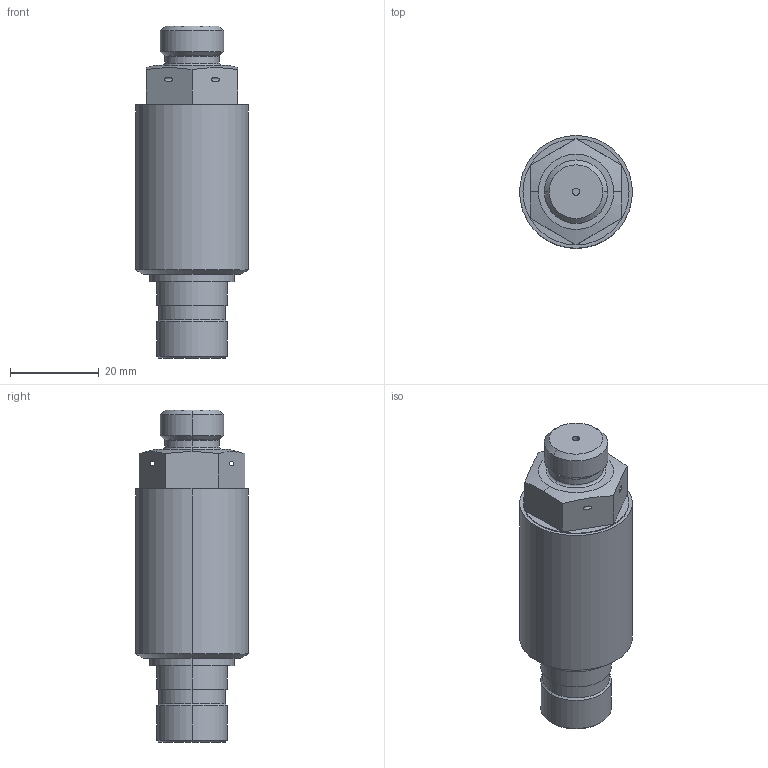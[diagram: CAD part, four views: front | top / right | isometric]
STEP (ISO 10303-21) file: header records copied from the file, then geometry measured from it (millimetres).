
FILE_DESCRIPTION (( 'STEP AP214' ), '1' );
FILE_NAME ('P6X-TYPE.STEP', '2010-11-11T14:29:15', ( '' ), ( '' ), 'SwSTEP 2.0', 'SolidWorks 2006303', '' );
FILE_SCHEMA (( 'AUTOMOTIVE_DESIGN' ));
Length unit declared in the file: inch
Products named in the file (1): P6X-TYPE
Bounding box: 25.4 x 25.4 x 74.75 mm (x, y, z)
Volume: 27550.4 mm3; surface area: 6050.5 mm2
Topology: 1 solids, 1 shells, 53 faces, 114 edges, 70 vertices
Faces by surface type: cylinder 22, plane 15, cone 12, torus 4
Entity records: 1507 total; most frequent: CARTESIAN_POINT 314, DIRECTION 258, ORIENTED_EDGE 228, EDGE_CURVE 114, AXIS2_PLACEMENT_3D 106, VERTEX_POINT 70, EDGE_LOOP 64, ADVANCED_FACE 53
